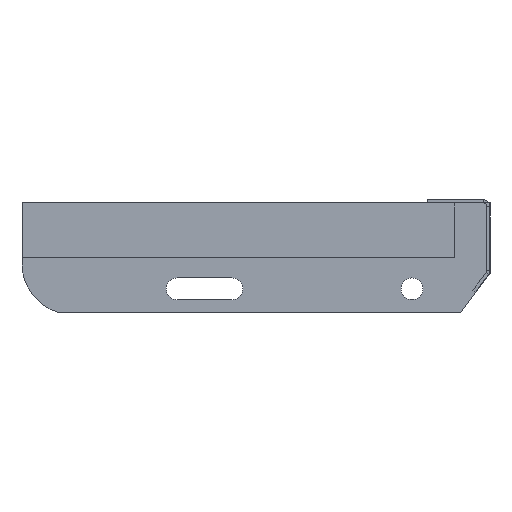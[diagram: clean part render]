
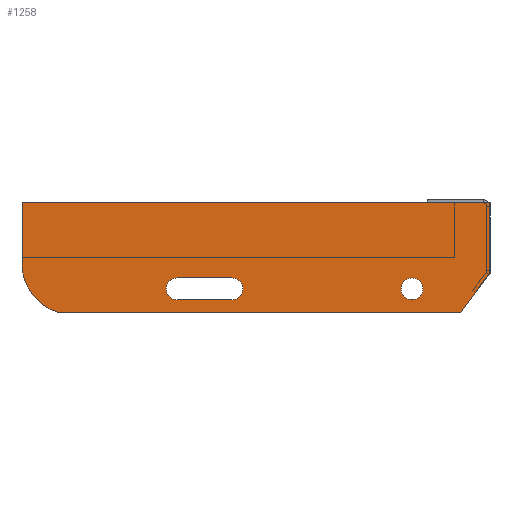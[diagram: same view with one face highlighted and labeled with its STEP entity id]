
A CAD part, left-side view. The second image highlights one B-rep face of the part: STEP entity #1258.
In plain terms, the highlighted planar face has unit normal (-1, 0, 0) as drawn and (0, 0, 1) by its records, which use the part's own axes.
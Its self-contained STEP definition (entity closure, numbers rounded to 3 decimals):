
#2 = CARTESIAN_POINT ( 'NONE',  ( -300., -39., 3. ) ) ;
#10 = DIRECTION ( 'NONE',  ( 1., 0., 0. ) ) ;
#11 = EDGE_CURVE ( 'NONE', #105, #1467, #270, .T. ) ;
#19 = CARTESIAN_POINT ( 'NONE',  ( -200.5, -62., 3. ) ) ;
#22 = LINE ( 'NONE', #477, #1110 ) ;
#57 = VECTOR ( 'NONE', #319, 1000. ) ;
#58 = DIRECTION ( 'NONE',  ( 0., 0., 1. ) ) ;
#59 = VECTOR ( 'NONE', #780, 1000. ) ;
#99 = VERTEX_POINT ( 'NONE', #280 ) ;
#105 = VERTEX_POINT ( 'NONE', #1082 ) ;
#134 = FACE_BOUND ( 'NONE', #675, .T. ) ;
#139 = ORIENTED_EDGE ( 'NONE', *, *, #912, .T. ) ;
#152 = VERTEX_POINT ( 'NONE', #19 ) ;
#153 = DIRECTION ( 'NONE',  ( -1., 0., 0. ) ) ;
#161 = LINE ( 'NONE', #622, #57 ) ;
#177 = LINE ( 'NONE', #1424, #583 ) ;
#182 = VERTEX_POINT ( 'NONE', #975 ) ;
#208 = DIRECTION ( 'NONE',  ( 0., 0., 1. ) ) ;
#242 = VERTEX_POINT ( 'NONE', #943 ) ;
#263 = AXIS2_PLACEMENT_3D ( 'NONE', #1371, #1225, #1823 ) ;
#270 = LINE ( 'NONE', #1705, #59 ) ;
#280 = CARTESIAN_POINT ( 'NONE',  ( -277.26, -70., 3. ) ) ;
#319 = DIRECTION ( 'NONE',  ( 0.602, 0.799, 0. ) ) ;
#331 = CIRCLE ( 'NONE', #724, 7. ) ;
#376 = VERTEX_POINT ( 'NONE', #1616 ) ;
#382 = DIRECTION ( 'NONE',  ( 1., 0., 0. ) ) ;
#397 = EDGE_CURVE ( 'NONE', #531, #1101, #1481, .T. ) ;
#425 = ORIENTED_EDGE ( 'NONE', *, *, #676, .F. ) ;
#454 = CIRCLE ( 'NONE', #913, 7. ) ;
#477 = CARTESIAN_POINT ( 'NONE',  ( 0., 0., 3. ) ) ;
#531 = VERTEX_POINT ( 'NONE', #747 ) ;
#539 = CIRCLE ( 'NONE', #1550, 7. ) ;
#545 = CARTESIAN_POINT ( 'NONE',  ( -267.5, -39., 3. ) ) ;
#566 = LINE ( 'NONE', #1669, #1235 ) ;
#575 = FACE_BOUND ( 'NONE', #922, .T. ) ;
#583 = VECTOR ( 'NONE', #627, 1000. ) ;
#586 = ORIENTED_EDGE ( 'NONE', *, *, #1647, .F. ) ;
#598 = DIRECTION ( 'NONE',  ( 0., 0., 1. ) ) ;
#604 = FACE_OUTER_BOUND ( 'NONE', #1024, .T. ) ;
#606 = EDGE_CURVE ( 'NONE', #182, #1539, #331, .T. ) ;
#622 = CARTESIAN_POINT ( 'NONE',  ( 0., -45., 3. ) ) ;
#627 = DIRECTION ( 'NONE',  ( 1., 0., 0. ) ) ;
#655 = VECTOR ( 'NONE', #1158, 1000. ) ;
#666 = CARTESIAN_POINT ( 'NONE',  ( -57., -55., 3. ) ) ;
#667 = CARTESIAN_POINT ( 'NONE',  ( -207.5, -55., 3. ) ) ;
#675 = EDGE_LOOP ( 'NONE', ( #425, #586 ) ) ;
#676 = EDGE_CURVE ( 'NONE', #1940, #1248, #1472, .T. ) ;
#713 = EDGE_CURVE ( 'NONE', #242, #910, #1991, .T. ) ;
#724 = AXIS2_PLACEMENT_3D ( 'NONE', #738, #1998, #2008 ) ;
#734 = ORIENTED_EDGE ( 'NONE', *, *, #1972, .F. ) ;
#738 = CARTESIAN_POINT ( 'NONE',  ( -200.5, -55., 3. ) ) ;
#747 = CARTESIAN_POINT ( 'NONE',  ( 0., -45., 3. ) ) ;
#766 = PLANE ( 'NONE',  #263 ) ;
#780 = DIRECTION ( 'NONE',  ( 0., -1., 0. ) ) ;
#817 = DIRECTION ( 'NONE',  ( 0., 0., 1. ) ) ;
#910 = VERTEX_POINT ( 'NONE', #1329 ) ;
#912 = EDGE_CURVE ( 'NONE', #1467, #99, #1963, .T. ) ;
#913 = AXIS2_PLACEMENT_3D ( 'NONE', #1786, #58, #382 ) ;
#922 = EDGE_LOOP ( 'NONE', ( #1058, #734, #1723, #1214, #1431 ) ) ;
#925 = EDGE_CURVE ( 'NONE', #910, #182, #1139, .T. ) ;
#942 = ORIENTED_EDGE ( 'NONE', *, *, #11, .T. ) ;
#943 = CARTESIAN_POINT ( 'NONE',  ( -165.5, -62., 3. ) ) ;
#975 = CARTESIAN_POINT ( 'NONE',  ( -200.5, -48., 3. ) ) ;
#1010 = CARTESIAN_POINT ( 'NONE',  ( -200.5, -48., 3. ) ) ;
#1024 = EDGE_LOOP ( 'NONE', ( #1727, #1813, #942, #139, #1133, #1578 ) ) ;
#1058 = ORIENTED_EDGE ( 'NONE', *, *, #1684, .F. ) ;
#1082 = CARTESIAN_POINT ( 'NONE',  ( -300., 0., 3. ) ) ;
#1101 = VERTEX_POINT ( 'NONE', #1302 ) ;
#1110 = VECTOR ( 'NONE', #153, 1000. ) ;
#1133 = ORIENTED_EDGE ( 'NONE', *, *, #1346, .T. ) ;
#1139 = LINE ( 'NONE', #1010, #655 ) ;
#1152 = DIRECTION ( 'NONE',  ( 0., 1., 0. ) ) ;
#1158 = DIRECTION ( 'NONE',  ( -1., 0., 0. ) ) ;
#1161 = CARTESIAN_POINT ( 'NONE',  ( 0., 0., 3. ) ) ;
#1214 = ORIENTED_EDGE ( 'NONE', *, *, #925, .F. ) ;
#1225 = DIRECTION ( 'NONE',  ( 0., 0., 1. ) ) ;
#1235 = VECTOR ( 'NONE', #1492, 1000. ) ;
#1238 = AXIS2_PLACEMENT_3D ( 'NONE', #1978, #598, #1676 ) ;
#1248 = VERTEX_POINT ( 'NONE', #1660 ) ;
#1258 = ADVANCED_FACE ( 'NONE', ( #604, #134, #575 ), #766, .T. ) ;
#1290 = CARTESIAN_POINT ( 'NONE',  ( -200.5, -55., 3. ) ) ;
#1302 = CARTESIAN_POINT ( 'NONE',  ( 0., 0., 3. ) ) ;
#1329 = CARTESIAN_POINT ( 'NONE',  ( -165.5, -48., 3. ) ) ;
#1330 = EDGE_CURVE ( 'NONE', #1101, #105, #22, .T. ) ;
#1346 = EDGE_CURVE ( 'NONE', #99, #376, #177, .T. ) ;
#1371 = CARTESIAN_POINT ( 'NONE',  ( -267.5, -39., 3. ) ) ;
#1394 = CARTESIAN_POINT ( 'NONE',  ( -165.5, -55., 3. ) ) ;
#1417 = DIRECTION ( 'NONE',  ( 1., 0., 0. ) ) ;
#1424 = CARTESIAN_POINT ( 'NONE',  ( -18.839, -70., 3. ) ) ;
#1431 = ORIENTED_EDGE ( 'NONE', *, *, #713, .F. ) ;
#1467 = VERTEX_POINT ( 'NONE', #2 ) ;
#1472 = CIRCLE ( 'NONE', #1238, 7. ) ;
#1481 = LINE ( 'NONE', #1161, #1602 ) ;
#1492 = DIRECTION ( 'NONE',  ( 1., 0., 0. ) ) ;
#1530 = AXIS2_PLACEMENT_3D ( 'NONE', #1394, #817, #1417 ) ;
#1539 = VERTEX_POINT ( 'NONE', #667 ) ;
#1550 = AXIS2_PLACEMENT_3D ( 'NONE', #1290, #208, #10 ) ;
#1578 = ORIENTED_EDGE ( 'NONE', *, *, #1757, .T. ) ;
#1602 = VECTOR ( 'NONE', #1152, 1000. ) ;
#1616 = CARTESIAN_POINT ( 'NONE',  ( -18.839, -70., 3. ) ) ;
#1641 = DIRECTION ( 'NONE',  ( 0., 0., 1. ) ) ;
#1647 = EDGE_CURVE ( 'NONE', #1248, #1940, #454, .T. ) ;
#1660 = CARTESIAN_POINT ( 'NONE',  ( -43., -55., 3. ) ) ;
#1669 = CARTESIAN_POINT ( 'NONE',  ( -200.5, -62., 3. ) ) ;
#1676 = DIRECTION ( 'NONE',  ( 1., 0., 0. ) ) ;
#1684 = EDGE_CURVE ( 'NONE', #152, #242, #566, .T. ) ;
#1698 = AXIS2_PLACEMENT_3D ( 'NONE', #545, #1641, #1914 ) ;
#1705 = CARTESIAN_POINT ( 'NONE',  ( -300., 0., 3. ) ) ;
#1723 = ORIENTED_EDGE ( 'NONE', *, *, #606, .F. ) ;
#1727 = ORIENTED_EDGE ( 'NONE', *, *, #397, .T. ) ;
#1757 = EDGE_CURVE ( 'NONE', #376, #531, #161, .T. ) ;
#1786 = CARTESIAN_POINT ( 'NONE',  ( -50., -55., 3. ) ) ;
#1813 = ORIENTED_EDGE ( 'NONE', *, *, #1330, .T. ) ;
#1823 = DIRECTION ( 'NONE',  ( 1., 0., 0. ) ) ;
#1914 = DIRECTION ( 'NONE',  ( 1., 0., 0. ) ) ;
#1940 = VERTEX_POINT ( 'NONE', #666 ) ;
#1963 = CIRCLE ( 'NONE', #1698, 32.5 ) ;
#1972 = EDGE_CURVE ( 'NONE', #1539, #152, #539, .T. ) ;
#1978 = CARTESIAN_POINT ( 'NONE',  ( -50., -55., 3. ) ) ;
#1991 = CIRCLE ( 'NONE', #1530, 7. ) ;
#1998 = DIRECTION ( 'NONE',  ( 0., 0., 1. ) ) ;
#2008 = DIRECTION ( 'NONE',  ( 1., 0., 0. ) ) ;
